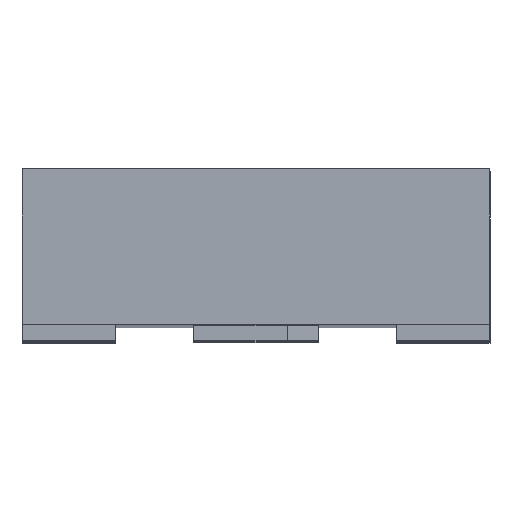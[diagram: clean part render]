
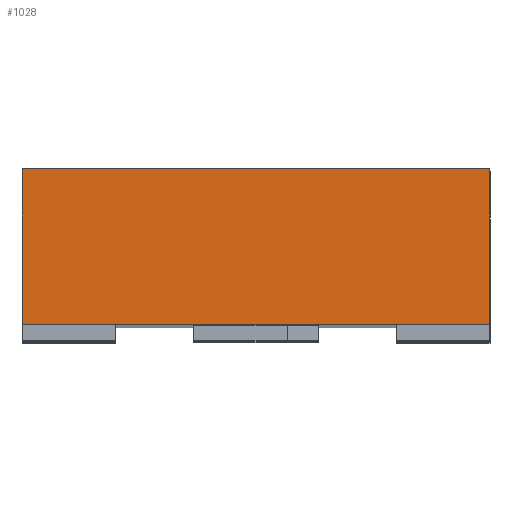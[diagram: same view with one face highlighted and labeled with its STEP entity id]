
A CAD part, top view. The second image highlights one B-rep face of the part: STEP entity #1028.
In plain terms, the highlighted planar face has unit normal (0, 0, 1) as drawn and (0, 0, -1) by its records, which use the part's own axes.
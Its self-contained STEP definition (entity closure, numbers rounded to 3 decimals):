
#25 = CARTESIAN_POINT ( 'NONE',  ( 0.75, 0.55, -2.75 ) ) ;
#516 = CARTESIAN_POINT ( 'NONE',  ( -0.75, 0.55, -2.75 ) ) ;
#536 = EDGE_CURVE ( 'NONE', #5715, #3407, #4992, .T. ) ;
#828 = VERTEX_POINT ( 'NONE', #516 ) ;
#909 = FACE_OUTER_BOUND ( 'NONE', #4186, .T. ) ;
#1028 = ADVANCED_FACE ( 'NONE', ( #909 ), #3961, .F. ) ;
#1196 = DIRECTION ( 'NONE',  ( 0., -1., 0. ) ) ;
#1344 = DIRECTION ( 'NONE',  ( 1., 0., 0. ) ) ;
#1349 = ORIENTED_EDGE ( 'NONE', *, *, #5774, .F. ) ;
#1364 = LINE ( 'NONE', #5636, #5782 ) ;
#1367 = LINE ( 'NONE', #1544, #3629 ) ;
#1544 = CARTESIAN_POINT ( 'NONE',  ( -0.75, 0.55, -2.75 ) ) ;
#2692 = VECTOR ( 'NONE', #1196, 1000. ) ;
#2942 = DIRECTION ( 'NONE',  ( -1., 0., 0. ) ) ;
#2967 = CARTESIAN_POINT ( 'NONE',  ( -0.75, 0.05, -2.75 ) ) ;
#3143 = EDGE_CURVE ( 'NONE', #828, #3707, #1364, .T. ) ;
#3407 = VERTEX_POINT ( 'NONE', #4005 ) ;
#3415 = LINE ( 'NONE', #2967, #5493 ) ;
#3475 = CARTESIAN_POINT ( 'NONE',  ( -0.75, 0.05, -2.75 ) ) ;
#3481 = ORIENTED_EDGE ( 'NONE', *, *, #536, .T. ) ;
#3603 = ORIENTED_EDGE ( 'NONE', *, *, #5390, .T. ) ;
#3629 = VECTOR ( 'NONE', #2942, 1000. ) ;
#3680 = CARTESIAN_POINT ( 'NONE',  ( 0.75, 0.55, -2.75 ) ) ;
#3707 = VERTEX_POINT ( 'NONE', #3475 ) ;
#3961 = PLANE ( 'NONE',  #4354 ) ;
#4005 = CARTESIAN_POINT ( 'NONE',  ( 0.75, 0.05, -2.75 ) ) ;
#4186 = EDGE_LOOP ( 'NONE', ( #3603, #4408, #1349, #3481 ) ) ;
#4354 = AXIS2_PLACEMENT_3D ( 'NONE', #4972, #6549, #1344 ) ;
#4408 = ORIENTED_EDGE ( 'NONE', *, *, #3143, .F. ) ;
#4787 = DIRECTION ( 'NONE',  ( 0., -1., 0. ) ) ;
#4972 = CARTESIAN_POINT ( 'NONE',  ( -0.75, 0.55, -2.75 ) ) ;
#4992 = LINE ( 'NONE', #3680, #2692 ) ;
#5390 = EDGE_CURVE ( 'NONE', #3407, #3707, #3415, .T. ) ;
#5493 = VECTOR ( 'NONE', #5654, 1000. ) ;
#5636 = CARTESIAN_POINT ( 'NONE',  ( -0.75, 0.55, -2.75 ) ) ;
#5654 = DIRECTION ( 'NONE',  ( -1., 0., 0. ) ) ;
#5715 = VERTEX_POINT ( 'NONE', #25 ) ;
#5774 = EDGE_CURVE ( 'NONE', #5715, #828, #1367, .T. ) ;
#5782 = VECTOR ( 'NONE', #4787, 1000. ) ;
#6549 = DIRECTION ( 'NONE',  ( 0., 0., 1. ) ) ;
